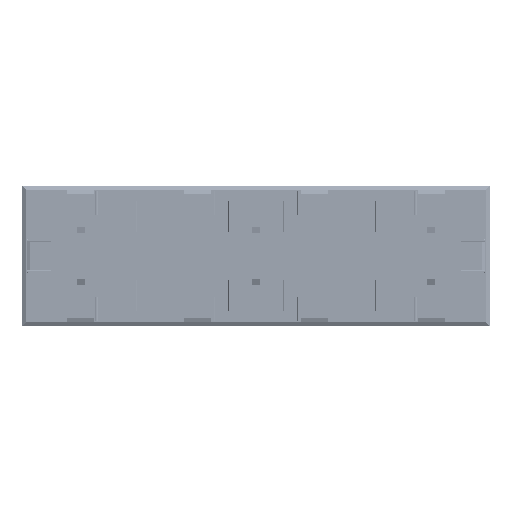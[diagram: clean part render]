
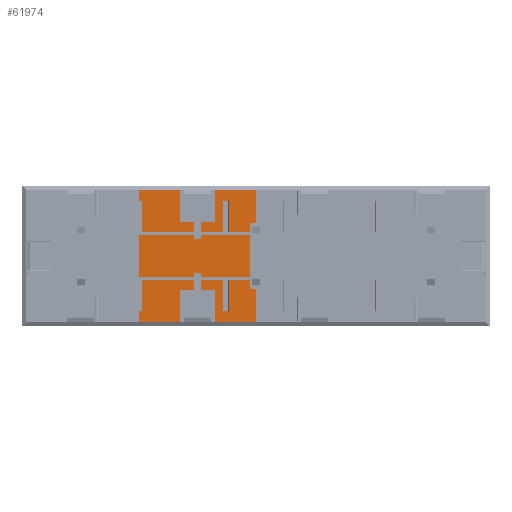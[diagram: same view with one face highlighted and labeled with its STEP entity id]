
A CAD part, front view. The second image highlights one B-rep face of the part: STEP entity #61974.
In plain terms, the highlighted planar face has unit normal (0, -1, 0).
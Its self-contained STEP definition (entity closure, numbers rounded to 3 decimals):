
#7757=FACE_OUTER_BOUND('',#11004,.T.);
#11004=EDGE_LOOP('',(#43167,#43168,#43169,#43170,#43171,#43172,#43173,#43174,
#43175,#43176,#43177,#43178,#43179,#43180,#43181,#43182,#43183,#43184,#43185,
#43186,#43187,#43188,#43189,#43190));
#14894=LINE('',#88326,#21810);
#14897=LINE('',#88332,#21813);
#14901=LINE('',#88339,#21817);
#14904=LINE('',#88347,#21820);
#14908=LINE('',#88356,#21824);
#14911=LINE('',#88360,#21827);
#14912=LINE('',#88363,#21828);
#14917=LINE('',#88372,#21833);
#14918=LINE('',#88375,#21834);
#14921=LINE('',#88382,#21837);
#14927=LINE('',#88393,#21843);
#14929=LINE('',#88398,#21845);
#14932=LINE('',#88404,#21848);
#14933=LINE('',#88406,#21849);
#14934=LINE('',#88408,#21850);
#14935=LINE('',#88410,#21851);
#14936=LINE('',#88412,#21852);
#14937=LINE('',#88413,#21853);
#14938=LINE('',#88415,#21854);
#14939=LINE('',#88417,#21855);
#14940=LINE('',#88418,#21856);
#14941=LINE('',#88420,#21857);
#14942=LINE('',#88422,#21858);
#14943=LINE('',#88423,#21859);
#21810=VECTOR('',#71809,0.394);
#21813=VECTOR('',#71814,0.394);
#21817=VECTOR('',#71820,0.394);
#21820=VECTOR('',#71825,0.394);
#21824=VECTOR('',#71831,0.394);
#21827=VECTOR('',#71836,0.394);
#21828=VECTOR('',#71839,0.394);
#21833=VECTOR('',#71846,0.394);
#21834=VECTOR('',#71849,0.394);
#21837=VECTOR('',#71854,0.394);
#21843=VECTOR('',#71862,0.394);
#21845=VECTOR('',#71866,0.394);
#21848=VECTOR('',#71873,0.394);
#21849=VECTOR('',#71874,0.394);
#21850=VECTOR('',#71875,0.394);
#21851=VECTOR('',#71876,0.394);
#21852=VECTOR('',#71877,0.394);
#21853=VECTOR('',#71878,0.394);
#21854=VECTOR('',#71879,0.394);
#21855=VECTOR('',#71880,0.394);
#21856=VECTOR('',#71881,0.394);
#21857=VECTOR('',#71882,0.394);
#21858=VECTOR('',#71883,0.394);
#21859=VECTOR('',#71884,0.394);
#28610=VERTEX_POINT('',#88323);
#28611=VERTEX_POINT('',#88325);
#28613=VERTEX_POINT('',#88331);
#28615=VERTEX_POINT('',#88337);
#28618=VERTEX_POINT('',#88344);
#28619=VERTEX_POINT('',#88346);
#28622=VERTEX_POINT('',#88353);
#28623=VERTEX_POINT('',#88355);
#28624=VERTEX_POINT('',#88362);
#28627=VERTEX_POINT('',#88370);
#28628=VERTEX_POINT('',#88374);
#28630=VERTEX_POINT('',#88380);
#28631=VERTEX_POINT('',#88381);
#28635=VERTEX_POINT('',#88390);
#28636=VERTEX_POINT('',#88395);
#28638=VERTEX_POINT('',#88403);
#28639=VERTEX_POINT('',#88405);
#28640=VERTEX_POINT('',#88407);
#28641=VERTEX_POINT('',#88409);
#28642=VERTEX_POINT('',#88411);
#28643=VERTEX_POINT('',#88414);
#28644=VERTEX_POINT('',#88416);
#28645=VERTEX_POINT('',#88419);
#28646=VERTEX_POINT('',#88421);
#34281=EDGE_CURVE('',#28611,#28610,#14894,.T.);
#34284=EDGE_CURVE('',#28613,#28611,#14897,.T.);
#34288=EDGE_CURVE('',#28610,#28615,#14901,.T.);
#34291=EDGE_CURVE('',#28619,#28618,#14904,.T.);
#34295=EDGE_CURVE('',#28623,#28622,#14908,.T.);
#34298=EDGE_CURVE('',#28622,#28619,#14911,.T.);
#34299=EDGE_CURVE('',#28624,#28613,#14912,.T.);
#34304=EDGE_CURVE('',#28618,#28627,#14917,.T.);
#34305=EDGE_CURVE('',#28628,#28623,#14918,.T.);
#34308=EDGE_CURVE('',#28630,#28631,#14921,.T.);
#34314=EDGE_CURVE('',#28635,#28630,#14927,.T.);
#34316=EDGE_CURVE('',#28631,#28636,#14929,.T.);
#34319=EDGE_CURVE('',#28615,#28638,#14932,.T.);
#34320=EDGE_CURVE('',#28638,#28639,#14933,.T.);
#34321=EDGE_CURVE('',#28639,#28640,#14934,.T.);
#34322=EDGE_CURVE('',#28640,#28641,#14935,.T.);
#34323=EDGE_CURVE('',#28641,#28642,#14936,.T.);
#34324=EDGE_CURVE('',#28642,#28628,#14937,.T.);
#34325=EDGE_CURVE('',#28627,#28643,#14938,.T.);
#34326=EDGE_CURVE('',#28643,#28644,#14939,.T.);
#34327=EDGE_CURVE('',#28644,#28635,#14940,.T.);
#34328=EDGE_CURVE('',#28636,#28645,#14941,.T.);
#34329=EDGE_CURVE('',#28645,#28646,#14942,.T.);
#34330=EDGE_CURVE('',#28646,#28624,#14943,.T.);
#43167=ORIENTED_EDGE('',*,*,#34288,.T.);
#43168=ORIENTED_EDGE('',*,*,#34319,.T.);
#43169=ORIENTED_EDGE('',*,*,#34320,.T.);
#43170=ORIENTED_EDGE('',*,*,#34321,.T.);
#43171=ORIENTED_EDGE('',*,*,#34322,.T.);
#43172=ORIENTED_EDGE('',*,*,#34323,.T.);
#43173=ORIENTED_EDGE('',*,*,#34324,.T.);
#43174=ORIENTED_EDGE('',*,*,#34305,.T.);
#43175=ORIENTED_EDGE('',*,*,#34295,.T.);
#43176=ORIENTED_EDGE('',*,*,#34298,.T.);
#43177=ORIENTED_EDGE('',*,*,#34291,.T.);
#43178=ORIENTED_EDGE('',*,*,#34304,.T.);
#43179=ORIENTED_EDGE('',*,*,#34325,.T.);
#43180=ORIENTED_EDGE('',*,*,#34326,.T.);
#43181=ORIENTED_EDGE('',*,*,#34327,.T.);
#43182=ORIENTED_EDGE('',*,*,#34314,.T.);
#43183=ORIENTED_EDGE('',*,*,#34308,.T.);
#43184=ORIENTED_EDGE('',*,*,#34316,.T.);
#43185=ORIENTED_EDGE('',*,*,#34328,.T.);
#43186=ORIENTED_EDGE('',*,*,#34329,.T.);
#43187=ORIENTED_EDGE('',*,*,#34330,.T.);
#43188=ORIENTED_EDGE('',*,*,#34299,.T.);
#43189=ORIENTED_EDGE('',*,*,#34284,.T.);
#43190=ORIENTED_EDGE('',*,*,#34281,.T.);
#59554=PLANE('',#66565);
#61974=ADVANCED_FACE('',(#7757),#59554,.T.);
#66565=AXIS2_PLACEMENT_3D('',#88402,#71871,#71872);
#71809=DIRECTION('',(-1.,0.,0.));
#71814=DIRECTION('',(0.,0.,-1.));
#71820=DIRECTION('',(0.,0.,1.));
#71825=DIRECTION('',(0.,0.,-1.));
#71831=DIRECTION('',(0.,0.,1.));
#71836=DIRECTION('',(1.,0.,0.));
#71839=DIRECTION('',(-1.,0.,0.));
#71846=DIRECTION('',(1.,0.,0.));
#71849=DIRECTION('',(1.,0.,0.));
#71854=DIRECTION('',(0.,0.,1.));
#71862=DIRECTION('',(-1.,0.,0.));
#71866=DIRECTION('',(1.,0.,0.));
#71871=DIRECTION('center_axis',(0.,-1.,0.));
#71872=DIRECTION('ref_axis',(0.,0.,-1.));
#71873=DIRECTION('',(-1.,0.,0.));
#71874=DIRECTION('',(0.,0.,1.));
#71875=DIRECTION('',(-1.,0.,0.));
#71876=DIRECTION('',(0.,0.,-1.));
#71877=DIRECTION('',(1.,0.,0.));
#71878=DIRECTION('',(0.,0.,1.));
#71879=DIRECTION('',(0.,0.,-1.));
#71880=DIRECTION('',(1.,0.,0.));
#71881=DIRECTION('',(0.,0.,1.));
#71882=DIRECTION('',(0.,0.,1.));
#71883=DIRECTION('',(-1.,0.,0.));
#71884=DIRECTION('',(0.,0.,-1.));
#88323=CARTESIAN_POINT('',(88.,-1.5,-27.375));
#88325=CARTESIAN_POINT('',(92.,-1.5,-27.375));
#88326=CARTESIAN_POINT('',(91.,-1.5,-27.375));
#88331=CARTESIAN_POINT('',(92.,-1.5,-18.375));
#88332=CARTESIAN_POINT('',(92.,-1.5,-27.188));
#88337=CARTESIAN_POINT('',(88.,-1.5,-18.375));
#88339=CARTESIAN_POINT('',(88.,-1.5,-31.688));
#88344=CARTESIAN_POINT('',(92.,-1.5,-53.625));
#88346=CARTESIAN_POINT('',(92.,-1.5,-44.625));
#88347=CARTESIAN_POINT('',(92.,-1.5,-40.313));
#88353=CARTESIAN_POINT('',(88.,-1.5,-44.625));
#88355=CARTESIAN_POINT('',(88.,-1.5,-53.625));
#88356=CARTESIAN_POINT('',(88.,-1.5,-44.813));
#88360=CARTESIAN_POINT('',(89.,-1.5,-44.625));
#88362=CARTESIAN_POINT('',(99.188,-1.5,-18.375));
#88363=CARTESIAN_POINT('',(94.594,-1.5,-18.375));
#88370=CARTESIAN_POINT('',(99.188,-1.5,-53.625));
#88372=CARTESIAN_POINT('',(85.406,-1.5,-53.625));
#88374=CARTESIAN_POINT('',(80.813,-1.5,-53.625));
#88375=CARTESIAN_POINT('',(85.406,-1.5,-53.625));
#88380=CARTESIAN_POINT('',(117.,-1.5,-53.));
#88381=CARTESIAN_POINT('',(117.,-1.5,-19.));
#88382=CARTESIAN_POINT('',(117.,-1.5,-44.5));
#88390=CARTESIAN_POINT('',(120.,-1.5,-53.));
#88393=CARTESIAN_POINT('',(106.5,-1.5,-53.));
#88395=CARTESIAN_POINT('',(120.,-1.5,-19.));
#88398=CARTESIAN_POINT('',(103.5,-1.5,-19.));
#88402=CARTESIAN_POINT('Origin',(90.,-1.5,-36.));
#88403=CARTESIAN_POINT('',(80.813,-1.5,-18.375));
#88404=CARTESIAN_POINT('',(94.594,-1.5,-18.375));
#88405=CARTESIAN_POINT('',(80.813,-1.5,-2.375));
#88406=CARTESIAN_POINT('',(80.813,-1.5,-27.188));
#88407=CARTESIAN_POINT('',(60.,-1.5,-2.375));
#88408=CARTESIAN_POINT('',(120.,-1.5,-2.375));
#88409=CARTESIAN_POINT('',(60.,-1.5,-69.625));
#88410=CARTESIAN_POINT('',(60.,-1.5,-2.375));
#88411=CARTESIAN_POINT('',(80.813,-1.5,-69.625));
#88412=CARTESIAN_POINT('',(60.,-1.5,-69.625));
#88413=CARTESIAN_POINT('',(80.813,-1.5,-52.813));
#88414=CARTESIAN_POINT('',(99.188,-1.5,-69.625));
#88415=CARTESIAN_POINT('',(99.188,-1.5,-44.813));
#88416=CARTESIAN_POINT('',(120.,-1.5,-69.625));
#88417=CARTESIAN_POINT('',(60.,-1.5,-69.625));
#88418=CARTESIAN_POINT('',(120.,-1.5,-69.625));
#88419=CARTESIAN_POINT('',(120.,-1.5,-2.375));
#88420=CARTESIAN_POINT('',(120.,-1.5,-69.625));
#88421=CARTESIAN_POINT('',(99.188,-1.5,-2.375));
#88422=CARTESIAN_POINT('',(120.,-1.5,-2.375));
#88423=CARTESIAN_POINT('',(99.188,-1.5,-19.188));
